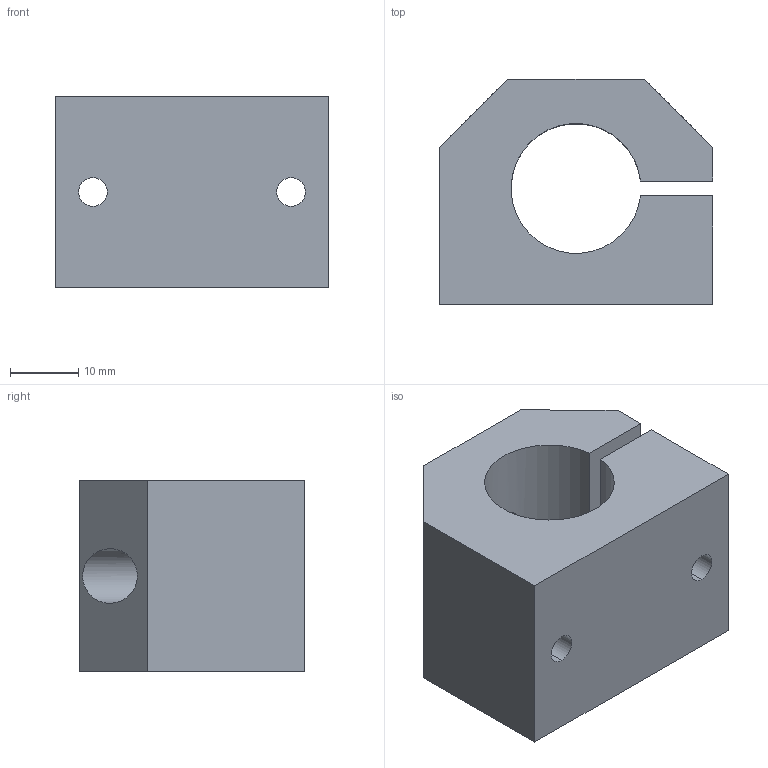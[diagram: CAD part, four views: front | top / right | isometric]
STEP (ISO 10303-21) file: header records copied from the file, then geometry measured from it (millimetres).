
FILE_DESCRIPTION (( 'STEP AP214' ), '1' );
FILE_NAME ('KGCE28 12.step', '2020-03-04T13:07:32', ( '' ), ( '' ), 'SwSTEP 2.0', 'SolidWorks 2019', '' );
FILE_SCHEMA (( 'AUTOMOTIVE_DESIGN' ));
Length unit declared in the file: millimetre
Products named in the file (1): KGCE28 12
Bounding box: 40 x 33 x 28 mm (x, y, z)
Volume: 22615.2 mm3; surface area: 9233.4 mm2
Topology: 1 solids, 1 shells, 41 faces, 104 edges, 66 vertices
Faces by surface type: cylinder 23, plane 14, cone 4
Entity records: 1442 total; most frequent: CARTESIAN_POINT 296, DIRECTION 210, ORIENTED_EDGE 200, EDGE_CURVE 100, AXIS2_PLACEMENT_3D 78, VERTEX_POINT 66, EDGE_LOOP 58, VECTOR 54
